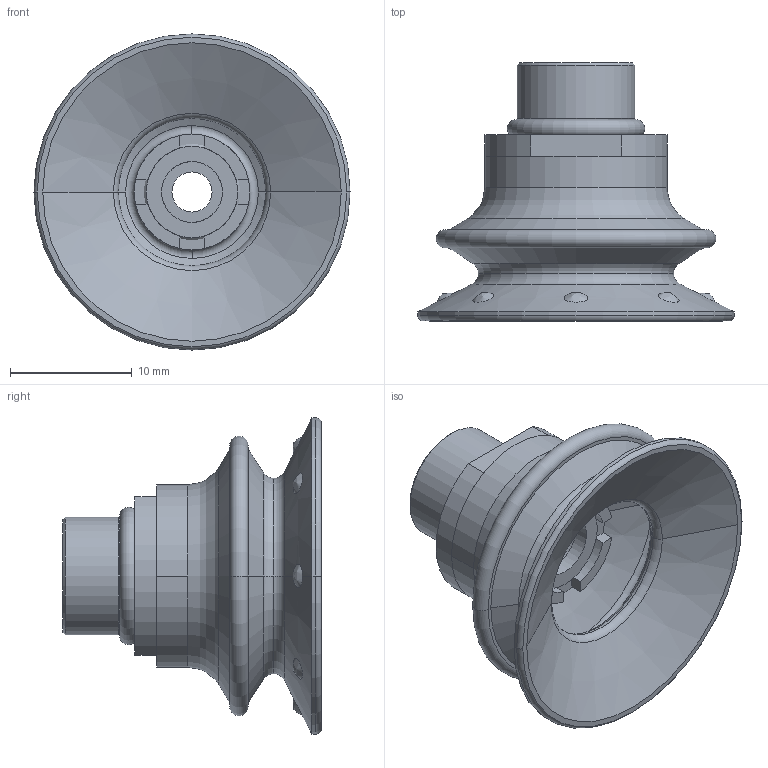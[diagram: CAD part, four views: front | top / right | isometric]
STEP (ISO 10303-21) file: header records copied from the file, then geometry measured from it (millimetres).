
FILE_DESCRIPTION (( 'STEP AP214' ), '1' );
FILE_NAME ('SB25P-60G-G18M-LP.STEP', '2026-03-17T13:04:19', ( '' ), ( '' ), 'SwSTEP 2.0', 'SolidWorks 2025', '' );
FILE_SCHEMA (( 'AUTOMOTIVE_DESIGN' ));
Length unit declared in the file: inch
Products named in the file (5): 401.017; SB25P-60G-G18M-LP; SB25P-60G; 401.017 O RING
Assembly tree (4 placements, depth 3):
  SB25P-60G-G18M-LP
    SB25P-60G
    401.017
      401.017
      401.017 O RING
Bounding box: 26 x 21.22 x 26 mm (x, y, z)
Volume: 2435.2 mm3; surface area: 3711.3 mm2
Topology: 3 solids, 3 shells, 99 faces, 224 edges, 144 vertices
Faces by surface type: plane 31, torus 22, cylinder 22, cone 16, bspline 8
Full cylindrical faces by diameter (mm): 3.3 x1, 4.2 x1, 5 x1, 6 x1, 8.25 x1, 8.5 x1, 9.66 x1, 11 x1
Entity records: 3551 total; most frequent: CARTESIAN_POINT 1203, DIRECTION 506, ORIENTED_EDGE 408, AXIS2_PLACEMENT_3D 221, EDGE_CURVE 204, VERTEX_POINT 140, EDGE_LOOP 132, CIRCLE 122
